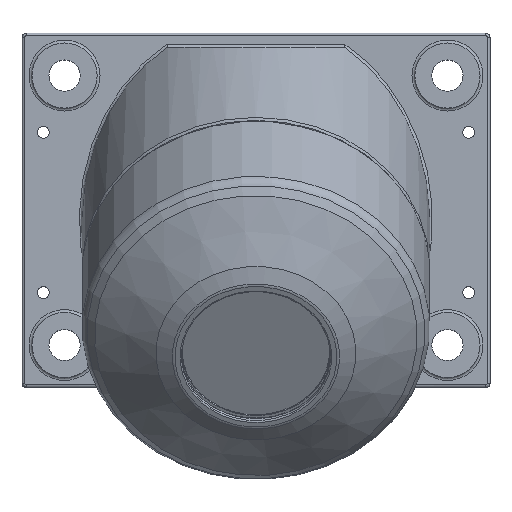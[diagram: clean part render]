
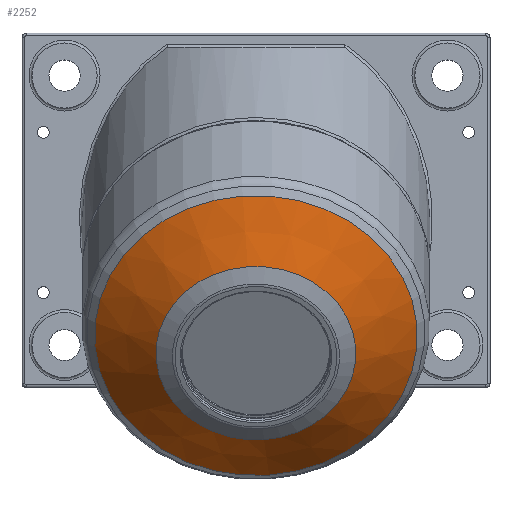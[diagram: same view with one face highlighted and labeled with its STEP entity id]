
A CAD part, top view. The second image highlights one B-rep face of the part: STEP entity #2252.
In plain terms, the highlighted conical face has half-angle 60 degrees and reference radius 92.189 mm.
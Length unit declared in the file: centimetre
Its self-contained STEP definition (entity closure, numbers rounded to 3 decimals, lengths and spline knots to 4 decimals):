
#155=FACE_BOUND('',#821,.T.);
#386=CIRCLE('',#2546,7.0538);
#387=CIRCLE('',#2548,11.384);
#429=CONICAL_SURFACE('',#2547,9.2189,60.);
#565=FACE_OUTER_BOUND('',#820,.T.);
#820=EDGE_LOOP('',(#1854));
#821=EDGE_LOOP('',(#1855));
#1160=VERTEX_POINT('',#4264);
#1161=VERTEX_POINT('',#4267);
#1402=EDGE_CURVE('',#1160,#1160,#386,.T.);
#1403=EDGE_CURVE('',#1161,#1161,#387,.T.);
#1854=ORIENTED_EDGE('',*,*,#1402,.F.);
#1855=ORIENTED_EDGE('',*,*,#1403,.T.);
#2252=ADVANCED_FACE('',(#565,#155),#429,.T.);
#2546=AXIS2_PLACEMENT_3D('',#4265,#3176,#3177);
#2547=AXIS2_PLACEMENT_3D('',#4266,#3178,#3179);
#2548=AXIS2_PLACEMENT_3D('',#4268,#3180,#3181);
#3176=DIRECTION('center_axis',(0.,-0.5,0.866));
#3177=DIRECTION('ref_axis',(-0.264,-0.835,-0.482));
#3178=DIRECTION('center_axis',(0.,0.5,-0.866));
#3179=DIRECTION('ref_axis',(0.264,0.835,0.482));
#3180=DIRECTION('center_axis',(0.,-0.5,0.866));
#3181=DIRECTION('ref_axis',(-0.264,-0.835,-0.482));
#4264=CARTESIAN_POINT('',(1.8647,2.1365,24.8743));
#4265=CARTESIAN_POINT('Origin',(0.,-3.755,
21.4729));
#4266=CARTESIAN_POINT('Origin',(0.,-3.13,
20.3903));
#4267=CARTESIAN_POINT('',(3.0094,7.0031,24.7973));
#4268=CARTESIAN_POINT('Origin',(0.,-2.505,
19.3078));
